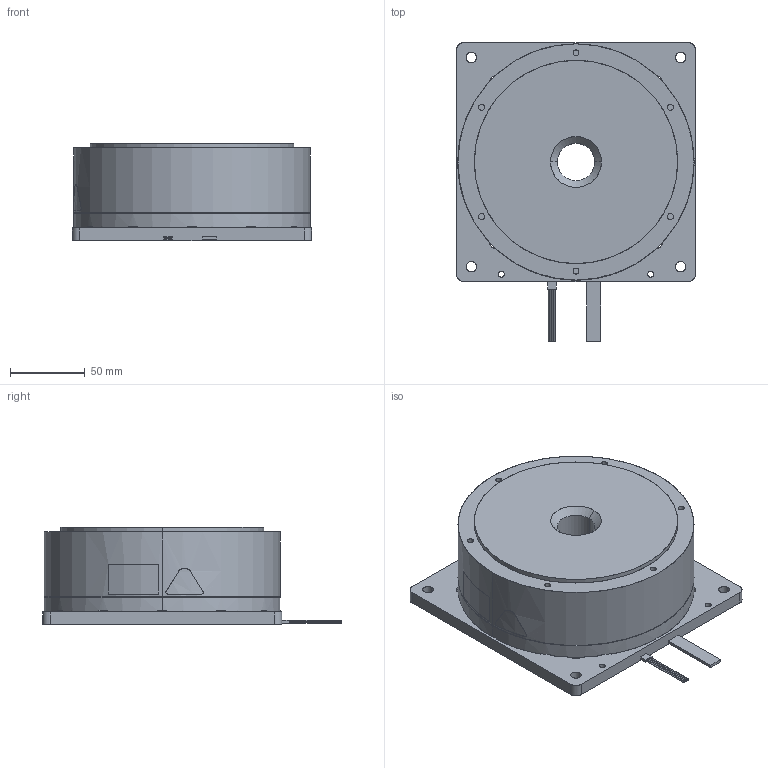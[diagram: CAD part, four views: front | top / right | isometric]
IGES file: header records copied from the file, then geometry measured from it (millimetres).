
Start section: SolidWorks IGES file using analytic representation for surfaces
Bounding box: 160 x 200 x 65 mm (x, y, z)
Surface area: 104967.2 mm2 (no closed solid volume)
Topology: 0 solids, 0 shells, 154 faces, 2804 edges, 2804 vertices
Faces by surface type: revolution 77, bspline 77
